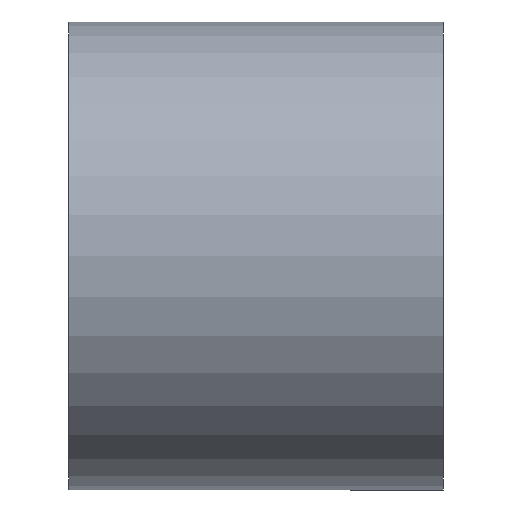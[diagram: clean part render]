
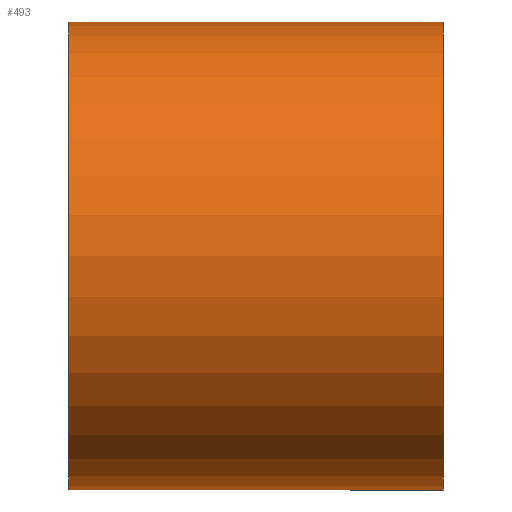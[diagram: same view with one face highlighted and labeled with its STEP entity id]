
A CAD part, front view. The second image highlights one B-rep face of the part: STEP entity #493.
In plain terms, the highlighted cylindrical face has radius 25 mm (diameter 50 mm), a partial arc.
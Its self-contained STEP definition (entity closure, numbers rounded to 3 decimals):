
#2 = AXIS2_PLACEMENT_3D ( 'NONE', #310, #252, #512 ) ;
#44 = VECTOR ( 'NONE', #212, 1000. ) ;
#45 = DIRECTION ( 'NONE',  ( -1., 0., 0. ) ) ;
#50 = CARTESIAN_POINT ( 'NONE',  ( 0., 0., 25. ) ) ;
#51 = VERTEX_POINT ( 'NONE', #394 ) ;
#68 = CIRCLE ( 'NONE', #732, 25. ) ;
#79 = CARTESIAN_POINT ( 'NONE',  ( 20., 0., -25. ) ) ;
#98 = ORIENTED_EDGE ( 'NONE', *, *, #829, .F. ) ;
#120 = EDGE_CURVE ( 'NONE', #754, #183, #68, .T. ) ;
#162 = CARTESIAN_POINT ( 'NONE',  ( 0., 0., -25. ) ) ;
#163 = CARTESIAN_POINT ( 'NONE',  ( 0., 0., 0. ) ) ;
#183 = VERTEX_POINT ( 'NONE', #841 ) ;
#212 = DIRECTION ( 'NONE',  ( -1., 0., 0. ) ) ;
#222 = VERTEX_POINT ( 'NONE', #774 ) ;
#227 = AXIS2_PLACEMENT_3D ( 'NONE', #163, #288, #298 ) ;
#252 = DIRECTION ( 'NONE',  ( -1., 0., 0. ) ) ;
#288 = DIRECTION ( 'NONE',  ( -1., 0., 0. ) ) ;
#297 = EDGE_CURVE ( 'NONE', #51, #222, #526, .T. ) ;
#298 = DIRECTION ( 'NONE',  ( 0., 0., 1. ) ) ;
#310 = CARTESIAN_POINT ( 'NONE',  ( -20., 0., 0. ) ) ;
#317 = ORIENTED_EDGE ( 'NONE', *, *, #297, .F. ) ;
#347 = FACE_OUTER_BOUND ( 'NONE', #450, .T. ) ;
#349 = LINE ( 'NONE', #162, #44 ) ;
#387 = LINE ( 'NONE', #50, #432 ) ;
#394 = CARTESIAN_POINT ( 'NONE',  ( -20., 0., -25. ) ) ;
#432 = VECTOR ( 'NONE', #45, 1000. ) ;
#450 = EDGE_LOOP ( 'NONE', ( #98, #847, #709, #317 ) ) ;
#479 = DIRECTION ( 'NONE',  ( 0., 0., 1. ) ) ;
#493 = ADVANCED_FACE ( 'NONE', ( #347 ), #639, .T. ) ;
#512 = DIRECTION ( 'NONE',  ( 0., 0., 1. ) ) ;
#526 = CIRCLE ( 'NONE', #2, 25. ) ;
#546 = EDGE_CURVE ( 'NONE', #183, #222, #387, .T. ) ;
#639 = CYLINDRICAL_SURFACE ( 'NONE', #227, 25. ) ;
#709 = ORIENTED_EDGE ( 'NONE', *, *, #546, .T. ) ;
#732 = AXIS2_PLACEMENT_3D ( 'NONE', #763, #748, #479 ) ;
#748 = DIRECTION ( 'NONE',  ( -1., 0., 0. ) ) ;
#754 = VERTEX_POINT ( 'NONE', #79 ) ;
#763 = CARTESIAN_POINT ( 'NONE',  ( 20., 0., 0. ) ) ;
#774 = CARTESIAN_POINT ( 'NONE',  ( -20., 0., 25. ) ) ;
#829 = EDGE_CURVE ( 'NONE', #754, #51, #349, .T. ) ;
#841 = CARTESIAN_POINT ( 'NONE',  ( 20., 0., 25. ) ) ;
#847 = ORIENTED_EDGE ( 'NONE', *, *, #120, .T. ) ;
